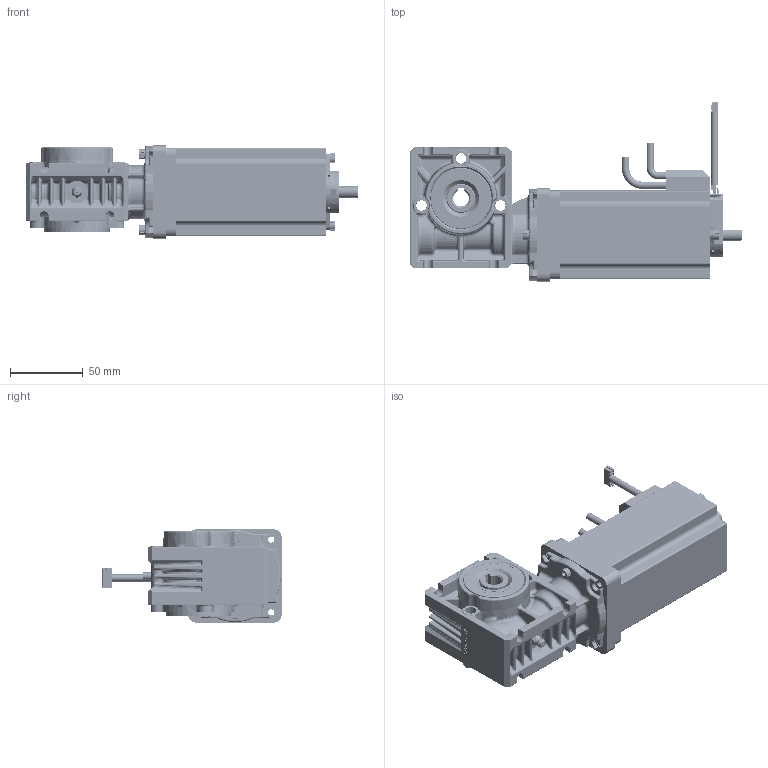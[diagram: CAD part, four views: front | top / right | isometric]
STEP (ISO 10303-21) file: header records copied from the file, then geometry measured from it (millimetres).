
FILE_DESCRIPTION (( 'STEP AP214' ), '1' );
FILE_NAME ('PBL60-70-GB28 - Encoder.STEP', '2024-09-14T13:45:08', ( '' ), ( '' ), 'SwSTEP 2.0', 'SolidWorks 2023', '' );
FILE_SCHEMA (( 'AUTOMOTIVE_DESIGN' ));
Length unit declared in the file: millimetre
Products named in the file (1): PBL60-70-GB28 - Encoder
Bounding box: 228 x 122.95 x 64 mm (x, y, z)
Surface area: 164890.3 mm2 (no closed solid volume)
Topology: 0 solids, 39 shells, 6615 faces, 17487 edges, 11105 vertices
Faces by surface type: plane 2747, cylinder 2170, bspline 1075, cone 352, torus 155, sphere 116
Entity records: 347897 total; most frequent: CARTESIAN_POINT 128078, ORIENTED_EDGE 34696, DIRECTION 24303, EDGE_CURVE 17350, VERTEX_POINT 11096, AXIS2_PLACEMENT_3D 8994, EDGE_LOOP 7148, B_SPLINE_CURVE_WITH_KNOTS 7105
